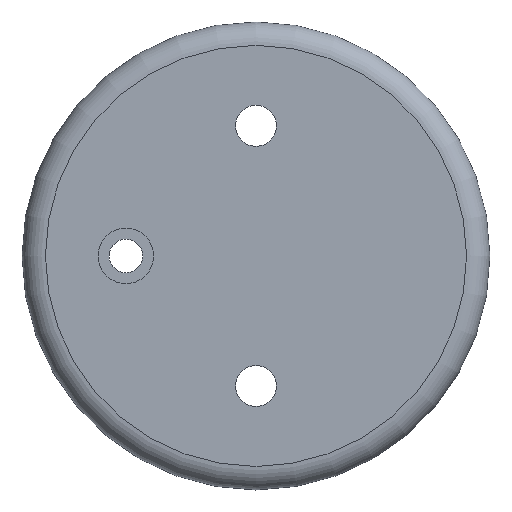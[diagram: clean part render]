
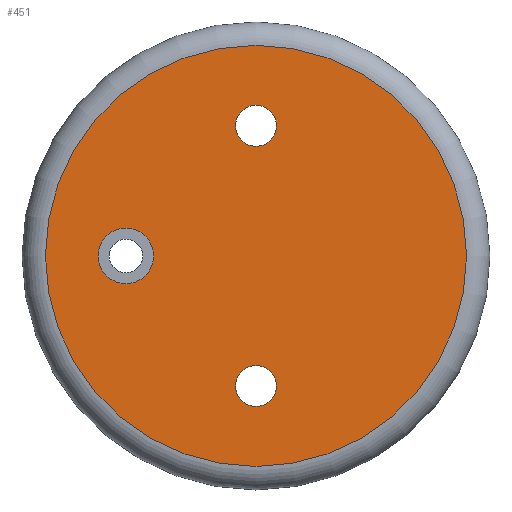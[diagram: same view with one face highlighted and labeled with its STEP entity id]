
A CAD part, top view. The second image highlights one B-rep face of the part: STEP entity #451.
In plain terms, the highlighted planar face has unit normal (0, 0, 1).
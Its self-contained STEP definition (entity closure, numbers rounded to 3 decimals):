
#105 = CYLINDRICAL_SURFACE('',#106,7.);
#106 = AXIS2_PLACEMENT_3D('',#107,#108,#109);
#107 = CARTESIAN_POINT('',(0.,-44.5,-4.));
#108 = DIRECTION('',(0.,0.,1.));
#109 = DIRECTION('',(1.,0.,-0.));
#136 = CYLINDRICAL_SURFACE('',#137,7.);
#137 = AXIS2_PLACEMENT_3D('',#138,#139,#140);
#138 = CARTESIAN_POINT('',(0.,44.5,-4.));
#139 = DIRECTION('',(0.,0.,1.));
#140 = DIRECTION('',(1.,0.,-0.));
#260 = EDGE_CURVE('',#261,#261,#263,.T.);
#261 = VERTEX_POINT('',#262);
#262 = CARTESIAN_POINT('',(7.,-44.5,0.));
#263 = SURFACE_CURVE('',#264,(#269,#276),.PCURVE_S1.);
#264 = CIRCLE('',#265,7.);
#265 = AXIS2_PLACEMENT_3D('',#266,#267,#268);
#266 = CARTESIAN_POINT('',(0.,-44.5,0.));
#267 = DIRECTION('',(0.,0.,1.));
#268 = DIRECTION('',(1.,0.,-0.));
#269 = PCURVE('',#105,#270);
#270 = DEFINITIONAL_REPRESENTATION('',(#271),#275);
#271 = LINE('',#272,#273);
#272 = CARTESIAN_POINT('',(0.,4.));
#273 = VECTOR('',#274,1.);
#274 = DIRECTION('',(1.,0.));
#275 = ( GEOMETRIC_REPRESENTATION_CONTEXT(2) 
PARAMETRIC_REPRESENTATION_CONTEXT() REPRESENTATION_CONTEXT('2D SPACE',''
  ) );
#276 = PCURVE('',#277,#282);
#277 = PLANE('',#278);
#278 = AXIS2_PLACEMENT_3D('',#279,#280,#281);
#279 = CARTESIAN_POINT('',(0.,0.,0.));
#280 = DIRECTION('',(0.,0.,1.));
#281 = DIRECTION('',(1.,0.,-0.));
#282 = DEFINITIONAL_REPRESENTATION('',(#283),#287);
#283 = CIRCLE('',#284,7.);
#284 = AXIS2_PLACEMENT_2D('',#285,#286);
#285 = CARTESIAN_POINT('',(0.,-44.5));
#286 = DIRECTION('',(1.,0.));
#287 = ( GEOMETRIC_REPRESENTATION_CONTEXT(2) 
PARAMETRIC_REPRESENTATION_CONTEXT() REPRESENTATION_CONTEXT('2D SPACE',''
  ) );
#315 = EDGE_CURVE('',#316,#316,#318,.T.);
#316 = VERTEX_POINT('',#317);
#317 = CARTESIAN_POINT('',(7.,44.5,0.));
#318 = SURFACE_CURVE('',#319,(#324,#331),.PCURVE_S1.);
#319 = CIRCLE('',#320,7.);
#320 = AXIS2_PLACEMENT_3D('',#321,#322,#323);
#321 = CARTESIAN_POINT('',(0.,44.5,0.));
#322 = DIRECTION('',(0.,0.,1.));
#323 = DIRECTION('',(1.,0.,-0.));
#324 = PCURVE('',#136,#325);
#325 = DEFINITIONAL_REPRESENTATION('',(#326),#330);
#326 = LINE('',#327,#328);
#327 = CARTESIAN_POINT('',(0.,4.));
#328 = VECTOR('',#329,1.);
#329 = DIRECTION('',(1.,0.));
#330 = ( GEOMETRIC_REPRESENTATION_CONTEXT(2) 
PARAMETRIC_REPRESENTATION_CONTEXT() REPRESENTATION_CONTEXT('2D SPACE',''
  ) );
#331 = PCURVE('',#277,#332);
#332 = DEFINITIONAL_REPRESENTATION('',(#333),#337);
#333 = CIRCLE('',#334,7.);
#334 = AXIS2_PLACEMENT_2D('',#335,#336);
#335 = CARTESIAN_POINT('',(0.,44.5));
#336 = DIRECTION('',(1.,0.));
#337 = ( GEOMETRIC_REPRESENTATION_CONTEXT(2) 
PARAMETRIC_REPRESENTATION_CONTEXT() REPRESENTATION_CONTEXT('2D SPACE',''
  ) );
#451 = ADVANCED_FACE('',(#452,#483,#514,#517),#277,.T.);
#452 = FACE_BOUND('',#453,.T.);
#453 = EDGE_LOOP('',(#454));
#454 = ORIENTED_EDGE('',*,*,#455,.T.);
#455 = EDGE_CURVE('',#456,#456,#458,.T.);
#456 = VERTEX_POINT('',#457);
#457 = CARTESIAN_POINT('',(72.,0.,0.));
#458 = SURFACE_CURVE('',#459,(#464,#471),.PCURVE_S1.);
#459 = CIRCLE('',#460,72.);
#460 = AXIS2_PLACEMENT_3D('',#461,#462,#463);
#461 = CARTESIAN_POINT('',(0.,0.,0.));
#462 = DIRECTION('',(0.,0.,1.));
#463 = DIRECTION('',(1.,0.,-0.));
#464 = PCURVE('',#277,#465);
#465 = DEFINITIONAL_REPRESENTATION('',(#466),#470);
#466 = CIRCLE('',#467,72.);
#467 = AXIS2_PLACEMENT_2D('',#468,#469);
#468 = CARTESIAN_POINT('',(0.,0.));
#469 = DIRECTION('',(1.,0.));
#470 = ( GEOMETRIC_REPRESENTATION_CONTEXT(2) 
PARAMETRIC_REPRESENTATION_CONTEXT() REPRESENTATION_CONTEXT('2D SPACE',''
  ) );
#471 = PCURVE('',#472,#477);
#472 = TOROIDAL_SURFACE('',#473,72.,8.);
#473 = AXIS2_PLACEMENT_3D('',#474,#475,#476);
#474 = CARTESIAN_POINT('',(0.,0.,-8.));
#475 = DIRECTION('',(0.,0.,1.));
#476 = DIRECTION('',(1.,0.,-0.));
#477 = DEFINITIONAL_REPRESENTATION('',(#478),#482);
#478 = LINE('',#479,#480);
#479 = CARTESIAN_POINT('',(0.,1.571));
#480 = VECTOR('',#481,1.);
#481 = DIRECTION('',(1.,0.));
#482 = ( GEOMETRIC_REPRESENTATION_CONTEXT(2) 
PARAMETRIC_REPRESENTATION_CONTEXT() REPRESENTATION_CONTEXT('2D SPACE',''
  ) );
#483 = FACE_BOUND('',#484,.T.);
#484 = EDGE_LOOP('',(#485));
#485 = ORIENTED_EDGE('',*,*,#486,.F.);
#486 = EDGE_CURVE('',#487,#487,#489,.T.);
#487 = VERTEX_POINT('',#488);
#488 = CARTESIAN_POINT('',(-35.,0.,0.));
#489 = SURFACE_CURVE('',#490,(#495,#502),.PCURVE_S1.);
#490 = CIRCLE('',#491,9.5);
#491 = AXIS2_PLACEMENT_3D('',#492,#493,#494);
#492 = CARTESIAN_POINT('',(-44.5,0.,0.));
#493 = DIRECTION('',(0.,0.,1.));
#494 = DIRECTION('',(1.,0.,-0.));
#495 = PCURVE('',#277,#496);
#496 = DEFINITIONAL_REPRESENTATION('',(#497),#501);
#497 = CIRCLE('',#498,9.5);
#498 = AXIS2_PLACEMENT_2D('',#499,#500);
#499 = CARTESIAN_POINT('',(-44.5,0.));
#500 = DIRECTION('',(1.,0.));
#501 = ( GEOMETRIC_REPRESENTATION_CONTEXT(2) 
PARAMETRIC_REPRESENTATION_CONTEXT() REPRESENTATION_CONTEXT('2D SPACE',''
  ) );
#502 = PCURVE('',#503,#508);
#503 = CYLINDRICAL_SURFACE('',#504,9.5);
#504 = AXIS2_PLACEMENT_3D('',#505,#506,#507);
#505 = CARTESIAN_POINT('',(-44.5,0.,-0.5));
#506 = DIRECTION('',(0.,0.,1.));
#507 = DIRECTION('',(1.,0.,-0.));
#508 = DEFINITIONAL_REPRESENTATION('',(#509),#513);
#509 = LINE('',#510,#511);
#510 = CARTESIAN_POINT('',(0.,0.5));
#511 = VECTOR('',#512,1.);
#512 = DIRECTION('',(1.,0.));
#513 = ( GEOMETRIC_REPRESENTATION_CONTEXT(2) 
PARAMETRIC_REPRESENTATION_CONTEXT() REPRESENTATION_CONTEXT('2D SPACE',''
  ) );
#514 = FACE_BOUND('',#515,.T.);
#515 = EDGE_LOOP('',(#516));
#516 = ORIENTED_EDGE('',*,*,#260,.F.);
#517 = FACE_BOUND('',#518,.T.);
#518 = EDGE_LOOP('',(#519));
#519 = ORIENTED_EDGE('',*,*,#315,.F.);
